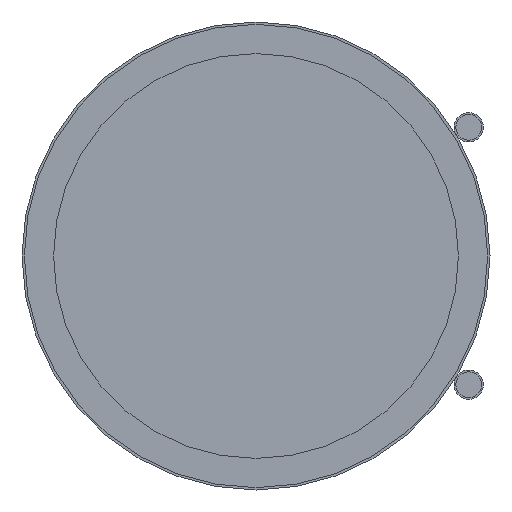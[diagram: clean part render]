
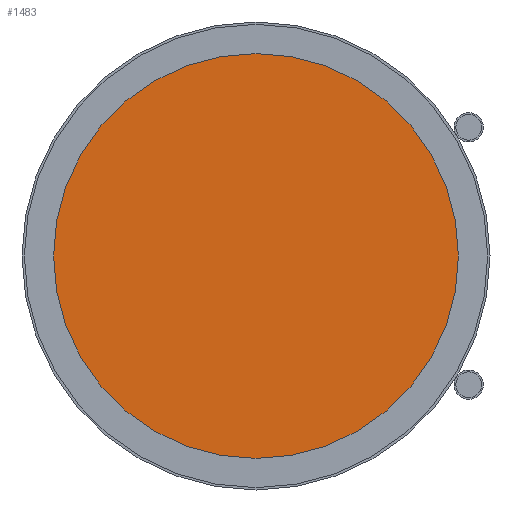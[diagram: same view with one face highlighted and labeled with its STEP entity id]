
A CAD part, front view. The second image highlights one B-rep face of the part: STEP entity #1483.
In plain terms, the highlighted planar face has unit normal (0, -1, 0).
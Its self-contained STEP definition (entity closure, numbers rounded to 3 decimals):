
#24 = ORIENTED_EDGE ( 'NONE', *, *, #492, .F. ) ;
#132 = CARTESIAN_POINT ( 'NONE',  ( 0., -5., 0. ) ) ;
#157 = CARTESIAN_POINT ( 'NONE',  ( 0., -5., 198. ) ) ;
#359 = DIRECTION ( 'NONE',  ( 0., 0., 1. ) ) ;
#438 = ORIENTED_EDGE ( 'NONE', *, *, #1834, .F. ) ;
#492 = EDGE_CURVE ( 'NONE', #1004, #1401, #721, .T. ) ;
#510 = DIRECTION ( 'NONE',  ( 0., 0., 1. ) ) ;
#534 = CARTESIAN_POINT ( 'NONE',  ( 0., -5., 0. ) ) ;
#704 = FACE_OUTER_BOUND ( 'NONE', #1345, .T. ) ;
#721 = CIRCLE ( 'NONE', #1502, 198. ) ;
#730 = CIRCLE ( 'NONE', #1276, 198. ) ;
#731 = CARTESIAN_POINT ( 'NONE',  ( 0., -5., -198. ) ) ;
#1004 = VERTEX_POINT ( 'NONE', #731 ) ;
#1276 = AXIS2_PLACEMENT_3D ( 'NONE', #534, #1517, #359 ) ;
#1345 = EDGE_LOOP ( 'NONE', ( #438, #24 ) ) ;
#1401 = VERTEX_POINT ( 'NONE', #157 ) ;
#1483 = ADVANCED_FACE ( 'NONE', ( #704 ), #1995, .F. ) ;
#1502 = AXIS2_PLACEMENT_3D ( 'NONE', #132, #1732, #1895 ) ;
#1517 = DIRECTION ( 'NONE',  ( 0., 1., 0. ) ) ;
#1732 = DIRECTION ( 'NONE',  ( 0., 1., 0. ) ) ;
#1834 = EDGE_CURVE ( 'NONE', #1401, #1004, #730, .T. ) ;
#1895 = DIRECTION ( 'NONE',  ( 0., 0., 1. ) ) ;
#1959 = CARTESIAN_POINT ( 'NONE',  ( 0., -5., 0. ) ) ;
#1975 = DIRECTION ( 'NONE',  ( 0., 1., 0. ) ) ;
#1995 = PLANE ( 'NONE',  #2013 ) ;
#2013 = AXIS2_PLACEMENT_3D ( 'NONE', #1959, #1975, #510 ) ;
